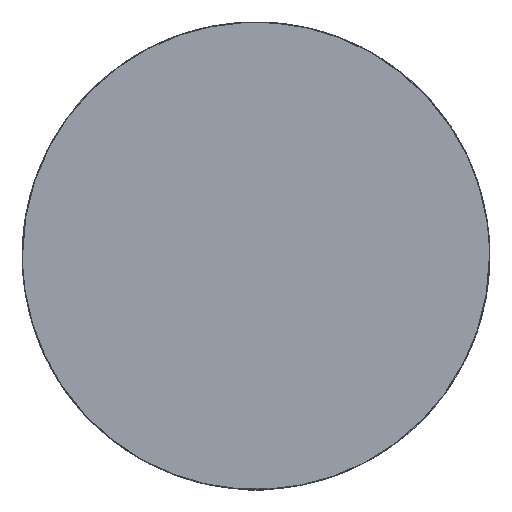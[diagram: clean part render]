
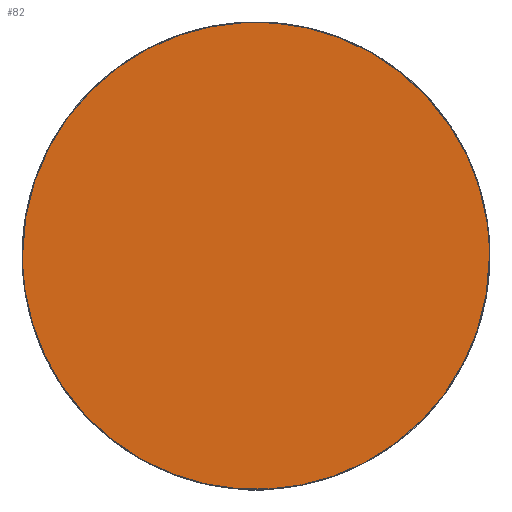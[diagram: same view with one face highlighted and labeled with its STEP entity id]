
A CAD part, top view. The second image highlights one B-rep face of the part: STEP entity #82.
In plain terms, the highlighted planar face has unit normal (0, 0, 1).
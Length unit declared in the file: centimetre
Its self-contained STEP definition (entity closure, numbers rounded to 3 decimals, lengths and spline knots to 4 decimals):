
#82=ADVANCED_FACE('',(#166),#1112,.T.);
#166=FACE_OUTER_BOUND('',#250,.T.);
#250=EDGE_LOOP('',(#497,#498));
#497=ORIENTED_EDGE('',*,*,#737,.F.);
#498=ORIENTED_EDGE('',*,*,#726,.F.);
#726=EDGE_CURVE('',#1004,#1013,#830,.T.);
#737=EDGE_CURVE('',#1013,#1004,#839,.T.);
#830=(
BOUNDED_CURVE()
B_SPLINE_CURVE(2,(#2198,#2199,#2200,#2201,#2202),.UNSPECIFIED.,.F.,.F.)
B_SPLINE_CURVE_WITH_KNOTS((3,2,3),(0.,94.0901,188.1802),
 .UNSPECIFIED.)
CURVE()
GEOMETRIC_REPRESENTATION_ITEM()
RATIONAL_B_SPLINE_CURVE((1.,0.707,1.,0.707,1.))
REPRESENTATION_ITEM('')
);
#839=(
BOUNDED_CURVE()
B_SPLINE_CURVE(2,(#2241,#2242,#2243,#2244,#2245),.UNSPECIFIED.,.F.,.F.)
B_SPLINE_CURVE_WITH_KNOTS((3,2,3),(188.1802,282.2703,376.3604),
 .UNSPECIFIED.)
CURVE()
GEOMETRIC_REPRESENTATION_ITEM()
RATIONAL_B_SPLINE_CURVE((1.,0.707,1.,0.707,1.))
REPRESENTATION_ITEM('')
);
#1004=VERTEX_POINT('',#2160);
#1013=VERTEX_POINT('',#2169);
#1112=PLANE('',#1182);
#1182=AXIS2_PLACEMENT_3D('',#2046,#1245,$);
#1245=DIRECTION('',(0.,0.,1.));
#2046=CARTESIAN_POINT('',(-1.2,-1.2,77.));
#2160=CARTESIAN_POINT('',(119.9,60.,77.));
#2169=CARTESIAN_POINT('',(0.1,60.,77.));
#2198=CARTESIAN_POINT('',(119.9,60.,77.));
#2199=CARTESIAN_POINT('',(119.9,0.1,77.));
#2200=CARTESIAN_POINT('',(60.,0.1,77.));
#2201=CARTESIAN_POINT('',(0.1,0.1,77.));
#2202=CARTESIAN_POINT('',(0.1,60.,77.));
#2241=CARTESIAN_POINT('',(0.1,60.,77.));
#2242=CARTESIAN_POINT('',(0.1,119.9,77.));
#2243=CARTESIAN_POINT('',(60.,119.9,77.));
#2244=CARTESIAN_POINT('',(119.9,119.9,77.));
#2245=CARTESIAN_POINT('',(119.9,60.,77.));
